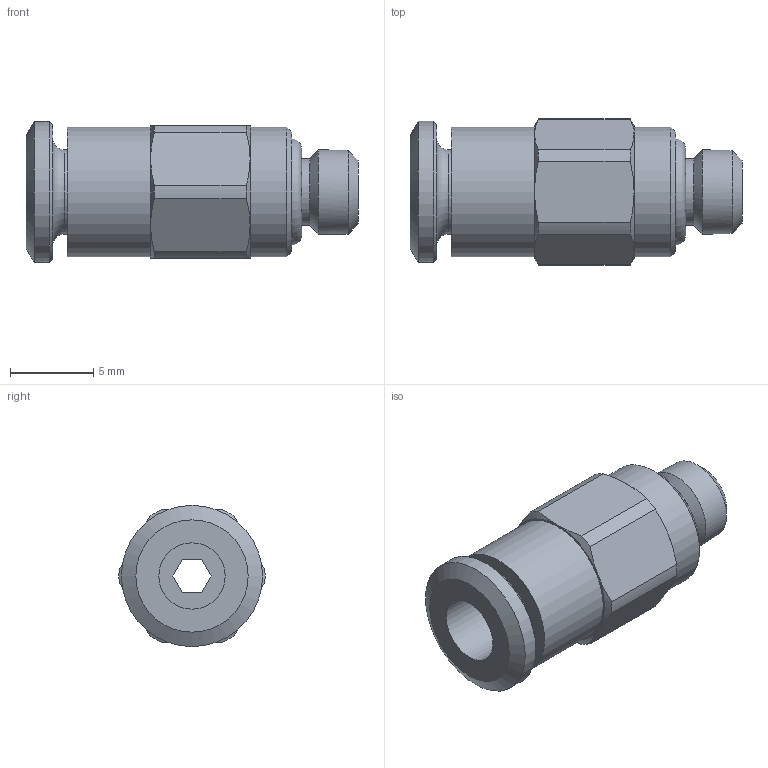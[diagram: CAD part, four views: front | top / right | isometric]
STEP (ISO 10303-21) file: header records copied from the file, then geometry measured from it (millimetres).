
FILE_DESCRIPTION(('STEP AP214'),'1');
FILE_NAME('CA.12.05.015.stp','2019-06-06T14:43:36',(' '),(' '),'Spatial InterOp 3D',' ',' ');
FILE_SCHEMA(('AUTOMOTIVE_DESIGN { 1 0 10303 214 1 1 1 1 }'));
Length unit declared in the file: millimetre
Products named in the file (1): CA.12.05.015
Bounding box: 20 x 8.8 x 8.5 mm (x, y, z)
Volume: 671.3 mm3; surface area: 831.9 mm2
Topology: 1 solids, 1 shells, 53 faces, 119 edges, 75 vertices
Faces by surface type: plane 21, cone 17, cylinder 13, torus 2
Full cylindrical faces by diameter (mm): 4 x2, 5.1 x2, 7.8 x2, 8.5 x1
Entity records: 1878 total; most frequent: CARTESIAN_POINT 360, DIRECTION 224, ORIENTED_EDGE 198, EDGE_CURVE 99, AXIS2_PLACEMENT_3D 97, EDGE_LOOP 76, VERTEX_POINT 69, FACE_OUTER_BOUND 62
